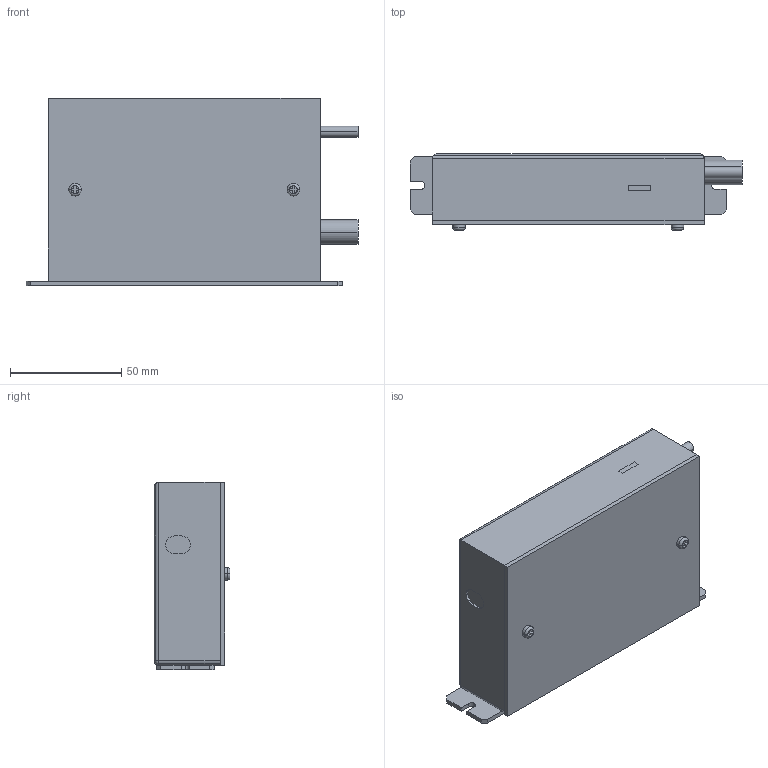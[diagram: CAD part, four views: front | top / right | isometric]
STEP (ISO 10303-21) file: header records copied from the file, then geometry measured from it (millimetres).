
FILE_DESCRIPTION(('FreeCAD Model'),'2;1');
FILE_NAME('Open CASCADE Shape Model','2023-08-01T15:39:13',('Author'),( ''),'Open CASCADE STEP processor 7.5','FreeCAD','Unknown');
FILE_SCHEMA(('AUTOMOTIVE_DESIGN { 1 0 10303 214 1 1 1 1 }'));
Length unit declared in the file: millimetre
Products named in the file (9): Unnamed; Shapes; Shapes001; Shapes002; Shapes003; Shapes004; Shapes005; Shapes006; Shapes007
Assembly tree (8 placements, depth 2):
  Unnamed
    Shapes
    Shapes001
    Shapes002
    Shapes003
    Shapes004
    Shapes005
    Shapes006
    Shapes007
Bounding box: 149 x 34.1 x 84 mm (x, y, z)
Volume: 326227 mm3; surface area: 62191.4 mm2
Topology: 8 solids, 8 shells, 116 faces, 276 edges, 178 vertices
Faces by surface type: plane 76, cylinder 34, torus 4, sphere 2
Entity records: 7452 total; most frequent: CARTESIAN_POINT 1597, DIRECTION 1098, LINE 686, VECTOR 686, ORIENTED_EDGE 548, PCURVE 548, DEFINITIONAL_REPRESENTATION 548, EDGE_CURVE 274
